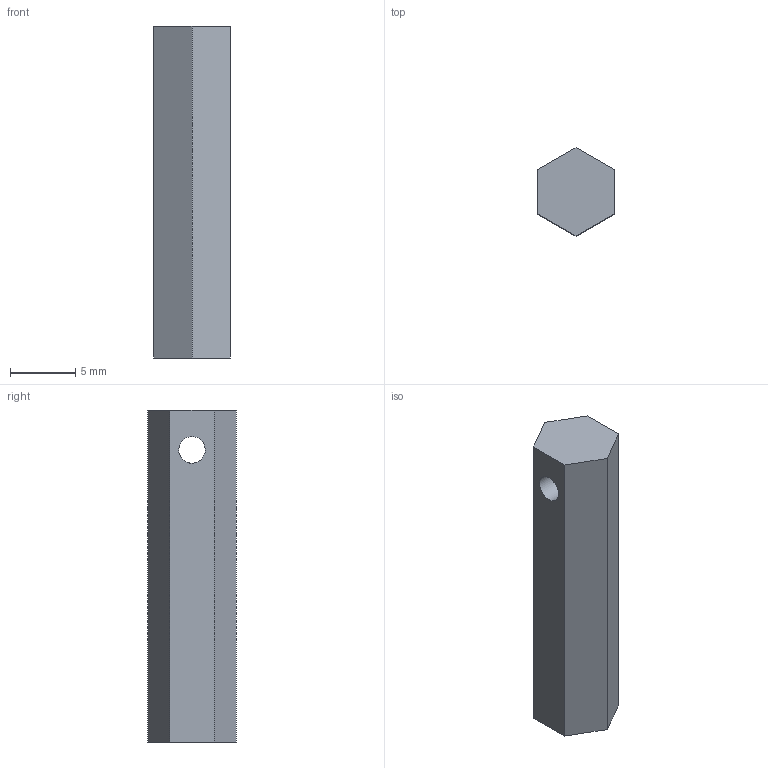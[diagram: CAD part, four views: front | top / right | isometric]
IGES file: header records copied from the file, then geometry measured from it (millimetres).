
Global section: file name: tensioners; native system: Autodesk Inventor 2015; preprocessor: unknown; author: Jascha; date: 20140624.184804; units: inch
Bounding box: 5.84 x 6.75 x 25.4 mm (x, y, z)
Volume: 614.7 mm3; surface area: 771.5 mm2
Topology: 1 solids, 1 shells, 11 faces, 24 edges, 16 vertices
Faces by surface type: bspline 11
